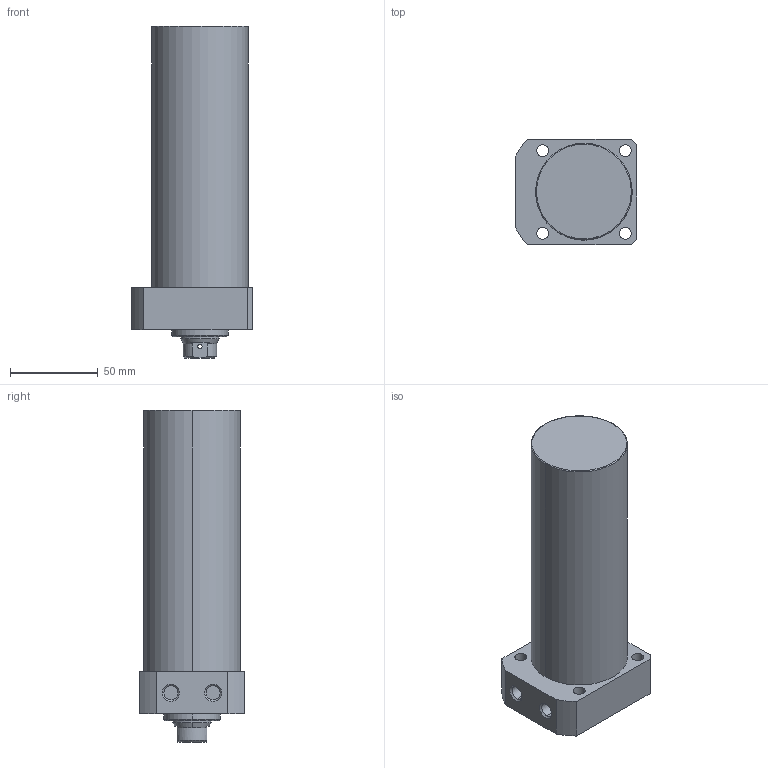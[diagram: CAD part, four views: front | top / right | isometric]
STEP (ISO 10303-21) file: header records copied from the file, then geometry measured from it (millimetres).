
FILE_DESCRIPTION (( 'STEP AP203' ), '1' );
FILE_NAME ('CLLR-055CB-120.STEP', '2019-12-17T11:56:40', ( '' ), ( '' ), 'SwSTEP 2.0', 'SolidWorks 2015', '' );
FILE_SCHEMA (( 'CONFIG_CONTROL_DESIGN' ));
Length unit declared in the file: millimetre
Products named in the file (1): CLLR-055CB-120
Bounding box: 69 x 60 x 189 mm (x, y, z)
Volume: 451583.9 mm3; surface area: 44080.8 mm2
Topology: 1 solids, 1 shells, 69 faces, 162 edges, 101 vertices
Faces by surface type: cylinder 33, plane 19, cone 15, torus 2
Entity records: 2175 total; most frequent: CARTESIAN_POINT 451, DIRECTION 368, ORIENTED_EDGE 320, EDGE_CURVE 160, AXIS2_PLACEMENT_3D 150, VERTEX_POINT 101, EDGE_LOOP 89, CIRCLE 80
